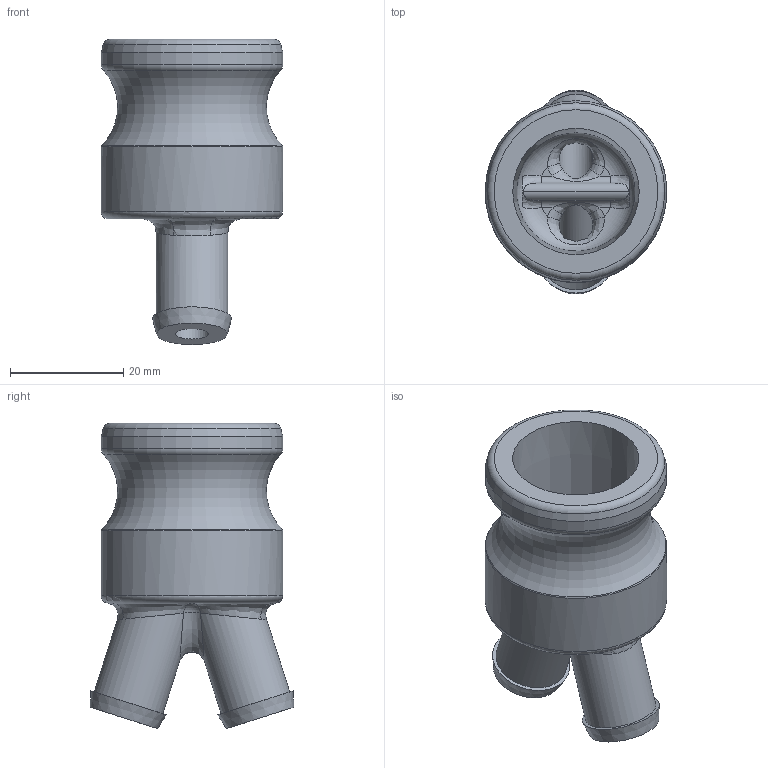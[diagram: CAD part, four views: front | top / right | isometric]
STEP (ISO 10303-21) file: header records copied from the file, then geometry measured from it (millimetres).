
FILE_DESCRIPTION(/* description */ ('Alibre Inc.'),/* implementation_level */ '2;1');
FILE_NAME(/* name */ 'export0',/* time_stamp */ '2017-02-19T14:04:44-05:00',/* author */ (''),/* organization */ (''),/* preprocessor_version */ 'ST-DEVELOPER v14',/* originating_system */ 'Alibre',/* authorisation */ '');
FILE_SCHEMA (('CONFIG_CONTROL_DESIGN'));
Length unit declared in the file: centimetre
Products named in the file (1): ID_1
Bounding box: 32.11 x 36.05 x 53.97 mm (x, y, z)
Volume: 16341.2 mm3; surface area: 8947.5 mm2
Topology: 1 solids, 1 shells, 55 faces, 132 edges, 78 vertices
Faces by surface type: bspline 19, plane 14, cylinder 10, torus 5, cone 5, sphere 2
Full cylindrical faces by diameter (mm): 5.953 x2, 12.7 x2, 32.106 x2
Entity records: 3896 total; most frequent: CARTESIAN_POINT 2764, ORIENTED_EDGE 216, DIRECTION 179, EDGE_CURVE 108, AXIS2_PLACEMENT_3D 92, EDGE_LOOP 76, FACE_BOUND 76, VERTEX_POINT 72
